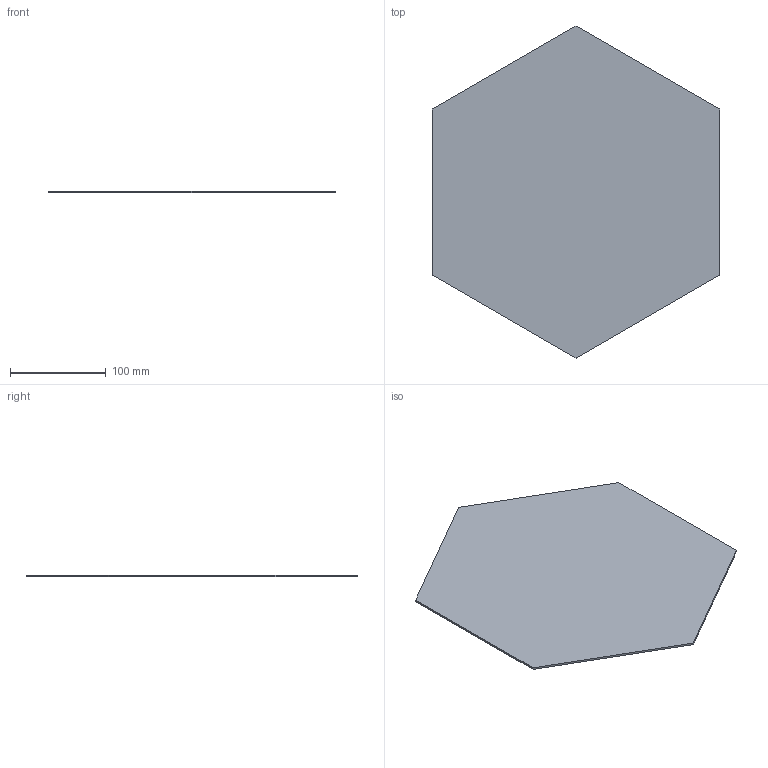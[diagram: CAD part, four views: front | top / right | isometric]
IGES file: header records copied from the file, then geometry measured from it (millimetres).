
Start section: SolidWorks IGES file using analytic representation for surfaces
Global section: file name: \\UTENTI\Dati Utenti\Tecnico\DC\2D - 3D per sito\3D superfici\DeCastelli-3D-Forma 35x30.igs; native system: SolidWorks 2022; preprocessor: SolidWorks 2022; author: Silviad; date: 240808.092949; units: millimetre
Bounding box: 300 x 346.41 x 2 mm (x, y, z)
Surface area: 157963 mm2 (no closed solid volume)
Topology: 0 solids, 0 shells, 8 faces, 36 edges, 36 vertices
Faces by surface type: bspline 8
